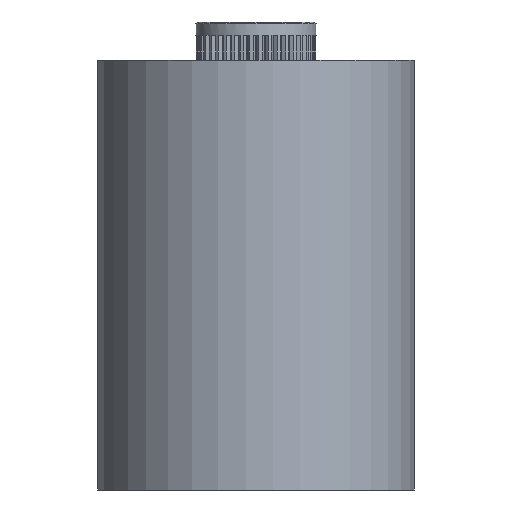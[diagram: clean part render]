
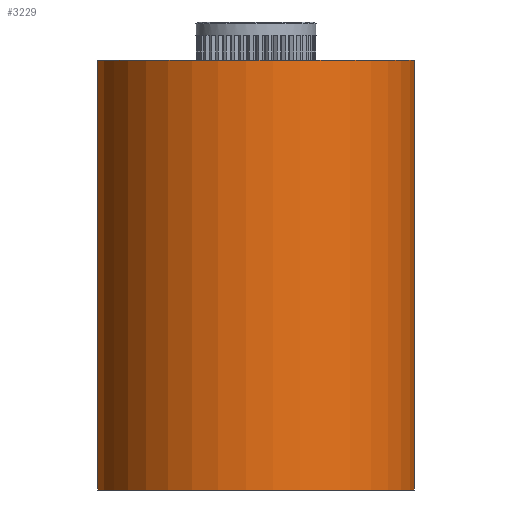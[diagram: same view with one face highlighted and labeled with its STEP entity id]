
A CAD part, front view. The second image highlights one B-rep face of the part: STEP entity #3229.
In plain terms, the highlighted cylindrical face has radius 10.5 mm (diameter 21 mm), a full revolution.
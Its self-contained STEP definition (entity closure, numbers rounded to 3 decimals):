
#2368=CARTESIAN_POINT('',(5.83,8.733,21.856));
#2369=VERTEX_POINT('',#2368);
#2370=CARTESIAN_POINT('',(0.,0.,21.856));
#2371=DIRECTION('',(0.,0.,1.0));
#2372=DIRECTION('',(-0.555,-0.832,0.));
#2373=AXIS2_PLACEMENT_3D('',#2370,#2371,#2372);
#2374=CIRCLE('',#2373,10.5);
#2375=EDGE_CURVE('',#2369,#2369,#2374,.T.);
#3210=CARTESIAN_POINT('',(0.,0.,-6.604));
#3211=DIRECTION('',(0.,0.,1.0));
#3212=DIRECTION('',(-0.555,-0.832,0.));
#3213=AXIS2_PLACEMENT_3D('',#3210,#3211,#3212);
#3214=CYLINDRICAL_SURFACE('',#3213,10.5);
#3215=ORIENTED_EDGE('',*,*,#2375,.F.);
#3216=EDGE_LOOP('',(#3215));
#3217=FACE_OUTER_BOUND('',#3216,.T.);
#3218=CARTESIAN_POINT('',(5.83,8.733,-6.604));
#3219=VERTEX_POINT('',#3218);
#3220=CARTESIAN_POINT('',(0.,0.,-6.604));
#3221=DIRECTION('',(0.,0.,-1.0));
#3222=DIRECTION('',(-0.555,-0.832,0.));
#3223=AXIS2_PLACEMENT_3D('',#3220,#3221,#3222);
#3224=CIRCLE('',#3223,10.5);
#3225=EDGE_CURVE('',#3219,#3219,#3224,.T.);
#3226=ORIENTED_EDGE('',*,*,#3225,.F.);
#3227=EDGE_LOOP('',(#3226));
#3228=FACE_BOUND('',#3227,.T.);
#3229=ADVANCED_FACE('',(#3217,#3228),#3214,.T.);
